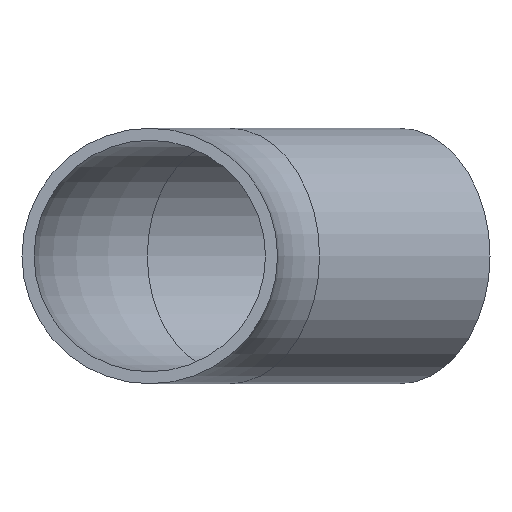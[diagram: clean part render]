
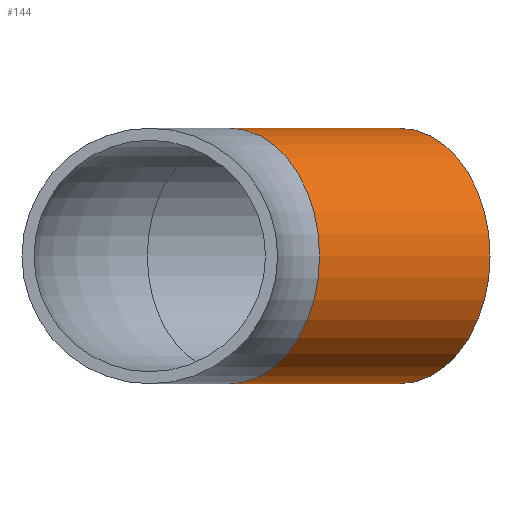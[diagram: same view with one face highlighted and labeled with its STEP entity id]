
A CAD part, front view. The second image highlights one B-rep face of the part: STEP entity #144.
In plain terms, the highlighted cylindrical face has radius 21.2 mm (diameter 42.4 mm), a full revolution.
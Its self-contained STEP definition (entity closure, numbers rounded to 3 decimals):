
#24=FACE_OUTER_BOUND('',#32,.T.);
#32=EDGE_LOOP('',(#113,#114,#115,#116,#117,#118));
#41=LINE('',#272,#45);
#45=VECTOR('',#223,21.2);
#54=CIRCLE('',#180,21.2);
#55=CIRCLE('',#181,21.2);
#56=CIRCLE('',#182,21.2);
#57=CIRCLE('',#183,21.2);
#69=VERTEX_POINT('',#267);
#70=VERTEX_POINT('',#268);
#71=VERTEX_POINT('',#271);
#72=VERTEX_POINT('',#273);
#86=EDGE_CURVE('',#69,#70,#54,.T.);
#87=EDGE_CURVE('',#70,#69,#55,.T.);
#88=EDGE_CURVE('',#70,#71,#41,.T.);
#89=EDGE_CURVE('',#71,#72,#56,.T.);
#90=EDGE_CURVE('',#72,#71,#57,.T.);
#113=ORIENTED_EDGE('',*,*,#86,.F.);
#114=ORIENTED_EDGE('',*,*,#87,.F.);
#115=ORIENTED_EDGE('',*,*,#88,.T.);
#116=ORIENTED_EDGE('',*,*,#89,.T.);
#117=ORIENTED_EDGE('',*,*,#90,.T.);
#118=ORIENTED_EDGE('',*,*,#88,.F.);
#139=CYLINDRICAL_SURFACE('',#179,21.2);
#144=ADVANCED_FACE('',(#24),#139,.T.);
#179=AXIS2_PLACEMENT_3D('',#266,#217,#218);
#180=AXIS2_PLACEMENT_3D('',#269,#219,#220);
#181=AXIS2_PLACEMENT_3D('',#270,#221,#222);
#182=AXIS2_PLACEMENT_3D('',#274,#224,#225);
#183=AXIS2_PLACEMENT_3D('',#275,#226,#227);
#217=DIRECTION('center_axis',(0.707,0.707,0.));
#218=DIRECTION('ref_axis',(-0.707,0.707,0.));
#219=DIRECTION('center_axis',(0.707,0.707,0.));
#220=DIRECTION('ref_axis',(-0.707,0.707,0.));
#221=DIRECTION('center_axis',(0.707,0.707,0.));
#222=DIRECTION('ref_axis',(-0.707,0.707,0.));
#223=DIRECTION('',(-0.707,-0.707,0.));
#224=DIRECTION('center_axis',(0.707,0.707,0.));
#225=DIRECTION('ref_axis',(-0.707,0.707,0.));
#226=DIRECTION('center_axis',(0.707,0.707,0.));
#227=DIRECTION('ref_axis',(-0.707,0.707,0.));
#266=CARTESIAN_POINT('Origin',(13.18,71.82,0.));
#267=CARTESIAN_POINT('',(26.474,115.095,0.));
#268=CARTESIAN_POINT('',(56.455,85.113,0.));
#269=CARTESIAN_POINT('Origin',(41.464,100.104,0.));
#270=CARTESIAN_POINT('Origin',(41.464,100.104,0.));
#271=CARTESIAN_POINT('',(28.171,56.829,0.));
#272=CARTESIAN_POINT('',(28.171,56.829,0.));
#273=CARTESIAN_POINT('',(-1.81,86.81,0.));
#274=CARTESIAN_POINT('Origin',(13.18,71.82,0.));
#275=CARTESIAN_POINT('Origin',(13.18,71.82,0.));
